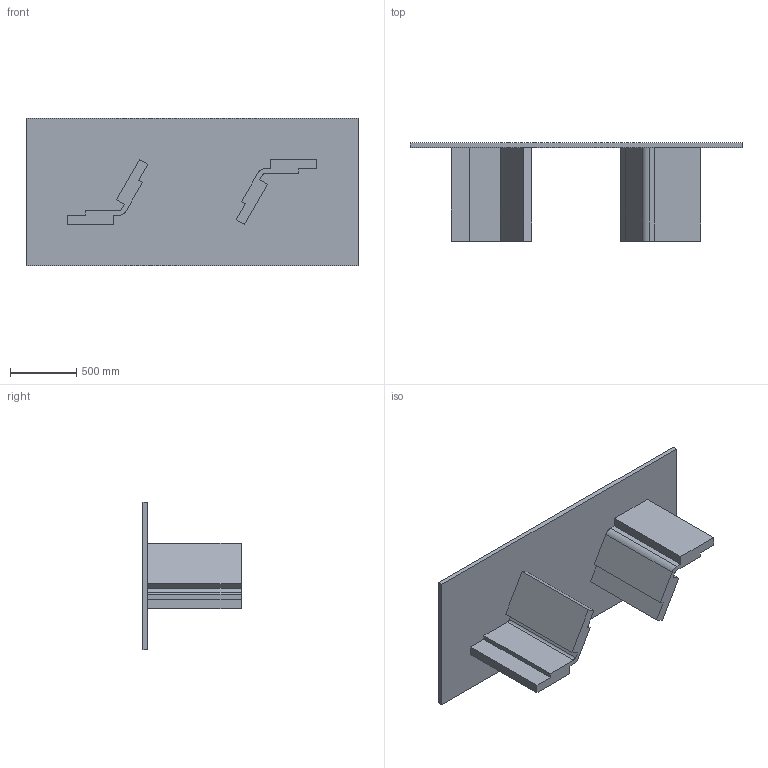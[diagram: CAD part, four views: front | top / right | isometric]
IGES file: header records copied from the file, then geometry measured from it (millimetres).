
Start section: SolidWorks IGES file using analytic representation for surfaces
Global section: file name: C:\Users\Utilizador\Desktop\170 Izar Dining Table_vb_prmt\170 Izar Dining Table_vb_3D IGS.IGS; native system: SolidWorks 2022; preprocessor: SolidWorks 2022; author: Utilizador; date: 221104.154245; units: millimetre
Bounding box: 2500 x 740 x 1110 mm (x, y, z)
Surface area: 8622620.1 mm2 (no closed solid volume)
Topology: 0 solids, 0 shells, 40 faces, 248 edges, 248 vertices
Faces by surface type: bspline 36, revolution 4
